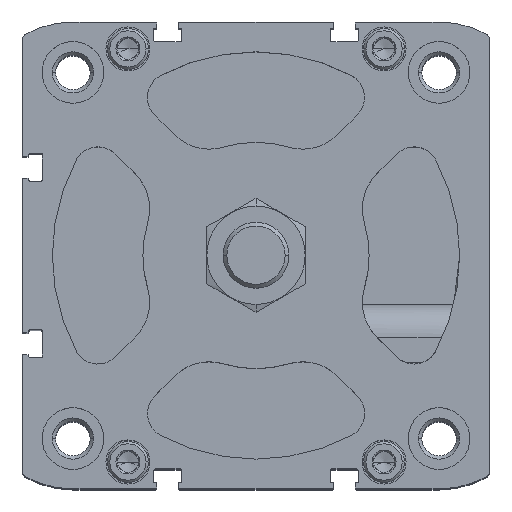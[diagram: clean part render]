
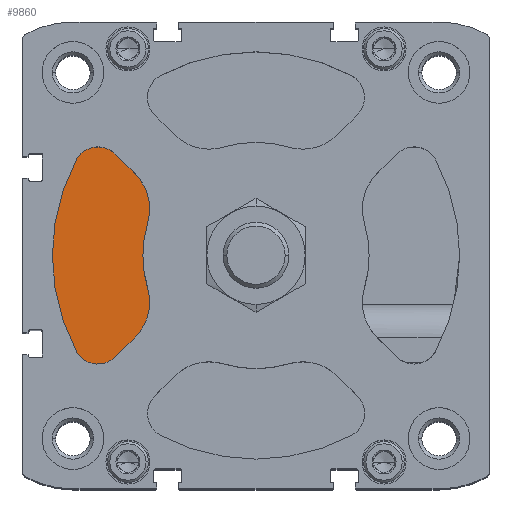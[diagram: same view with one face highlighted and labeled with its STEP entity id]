
A CAD part, top view. The second image highlights one B-rep face of the part: STEP entity #9860.
In plain terms, the highlighted planar face has unit normal (0, 0, 1).
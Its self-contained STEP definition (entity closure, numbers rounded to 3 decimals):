
#422 = CARTESIAN_POINT ( 'NONE',  ( -34.181, 24.635, -18.8 ) ) ;
#449 = CARTESIAN_POINT ( 'NONE',  ( -38.424, 26.393, -18.8 ) ) ;
#731 = EDGE_CURVE ( 'NONE', #21306, #10999, #7232, .T. ) ;
#764 = CARTESIAN_POINT ( 'NONE',  ( -43.724, 23.205, -18.8 ) ) ;
#768 = DIRECTION ( 'NONE',  ( 0., 1., 0. ) ) ;
#976 = CIRCLE ( 'NONE', #20718, 27.5 ) ;
#1273 = CARTESIAN_POINT ( 'NONE',  ( -29.356, 19.81, -18.8 ) ) ;
#1284 = VERTEX_POINT ( 'NONE', #449 ) ;
#1950 = DIRECTION ( 'NONE',  ( 1., 0., 0. ) ) ;
#2056 = ORIENTED_EDGE ( 'NONE', *, *, #9023, .T. ) ;
#2446 = DIRECTION ( 'NONE',  ( 0., 1., 0. ) ) ;
#2451 = AXIS2_PLACEMENT_3D ( 'NONE', #19384, #5644, #2446 ) ;
#2472 = LINE ( 'NONE', #15022, #20547 ) ;
#2711 = DIRECTION ( 'NONE',  ( 0., 0., 1. ) ) ;
#2885 = DIRECTION ( 'NONE',  ( 0.707, 0.707, 0. ) ) ;
#2947 = AXIS2_PLACEMENT_3D ( 'NONE', #11180, #2711, #768 ) ;
#3487 = DIRECTION ( 'NONE',  ( 0., 0., 1. ) ) ;
#3593 = CARTESIAN_POINT ( 'NONE',  ( 0., 0., -18.8 ) ) ;
#4360 = CIRCLE ( 'NONE', #10221, 12. ) ;
#4490 = ORIENTED_EDGE ( 'NONE', *, *, #731, .T. ) ;
#4624 = CARTESIAN_POINT ( 'NONE',  ( -26.345, 7.885, -18.8 ) ) ;
#4666 = AXIS2_PLACEMENT_3D ( 'NONE', #21462, #16534, #10935 ) ;
#4910 = CARTESIAN_POINT ( 'NONE',  ( -38.424, 20.393, -18.8 ) ) ;
#4964 = DIRECTION ( 'NONE',  ( 0., 1., 0. ) ) ;
#5147 = CARTESIAN_POINT ( 'NONE',  ( -43.724, -23.205, -18.8 ) ) ;
#5258 = PLANE ( 'NONE',  #12345 ) ;
#5287 = VERTEX_POINT ( 'NONE', #14257 ) ;
#5395 = DIRECTION ( 'NONE',  ( 0., 0., 1. ) ) ;
#5483 = ORIENTED_EDGE ( 'NONE', *, *, #21035, .T. ) ;
#5644 = DIRECTION ( 'NONE',  ( 0., 0., 1. ) ) ;
#6645 = DIRECTION ( 'NONE',  ( 0., 1., 0. ) ) ;
#6754 = VERTEX_POINT ( 'NONE', #12780 ) ;
#6795 = EDGE_CURVE ( 'NONE', #10649, #5287, #2472, .T. ) ;
#6990 = CIRCLE ( 'NONE', #2947, 12. ) ;
#7232 = CIRCLE ( 'NONE', #4666, 49.5 ) ;
#7314 = EDGE_CURVE ( 'NONE', #15194, #1284, #7411, .T. ) ;
#7411 = CIRCLE ( 'NONE', #20191, 6. ) ;
#7474 = ORIENTED_EDGE ( 'NONE', *, *, #6795, .T. ) ;
#8283 = CIRCLE ( 'NONE', #2451, 6. ) ;
#8349 = DIRECTION ( 'NONE',  ( 0., 0., 1. ) ) ;
#8583 = DIRECTION ( 'NONE',  ( -0.707, 0.707, 0. ) ) ;
#8897 = EDGE_CURVE ( 'NONE', #17667, #6754, #976, .T. ) ;
#8919 = CARTESIAN_POINT ( 'NONE',  ( -29.356, 19.81, -18.8 ) ) ;
#8948 = CARTESIAN_POINT ( 'NONE',  ( -38.424, -20.393, -18.8 ) ) ;
#9022 = DIRECTION ( 'NONE',  ( 0., 0., 1. ) ) ;
#9023 = EDGE_CURVE ( 'NONE', #1284, #21306, #8283, .T. ) ;
#9061 = DIRECTION ( 'NONE',  ( 0., 1., 0. ) ) ;
#9265 = CARTESIAN_POINT ( 'NONE',  ( 0., 0., -18.8 ) ) ;
#9860 = ADVANCED_FACE ( 'NONE', ( #15908 ), #5258, .T. ) ;
#10221 = AXIS2_PLACEMENT_3D ( 'NONE', #16995, #20775, #4964 ) ;
#10649 = VERTEX_POINT ( 'NONE', #11018 ) ;
#10935 = DIRECTION ( 'NONE',  ( 0., 1., 0. ) ) ;
#10999 = VERTEX_POINT ( 'NONE', #5147 ) ;
#11018 = CARTESIAN_POINT ( 'NONE',  ( -34.181, -24.635, -18.8 ) ) ;
#11080 = VERTEX_POINT ( 'NONE', #8919 ) ;
#11180 = CARTESIAN_POINT ( 'NONE',  ( -37.842, -11.325, -18.8 ) ) ;
#11310 = ORIENTED_EDGE ( 'NONE', *, *, #12956, .T. ) ;
#11617 = EDGE_CURVE ( 'NONE', #5287, #6754, #6990, .T. ) ;
#11782 = AXIS2_PLACEMENT_3D ( 'NONE', #8948, #5395, #9061 ) ;
#12345 = AXIS2_PLACEMENT_3D ( 'NONE', #9265, #9022, #1950 ) ;
#12743 = EDGE_LOOP ( 'NONE', ( #4490, #11310, #7474, #16922, #19908, #22461, #5483, #18093, #2056 ) ) ;
#12780 = CARTESIAN_POINT ( 'NONE',  ( -26.345, -7.885, -18.8 ) ) ;
#12811 = VECTOR ( 'NONE', #8583, 1000. ) ;
#12956 = EDGE_CURVE ( 'NONE', #10999, #10649, #14347, .T. ) ;
#14257 = CARTESIAN_POINT ( 'NONE',  ( -29.356, -19.81, -18.8 ) ) ;
#14347 = CIRCLE ( 'NONE', #11782, 6. ) ;
#15022 = CARTESIAN_POINT ( 'NONE',  ( -34.181, -24.635, -18.8 ) ) ;
#15194 = VERTEX_POINT ( 'NONE', #422 ) ;
#15908 = FACE_OUTER_BOUND ( 'NONE', #12743, .T. ) ;
#16534 = DIRECTION ( 'NONE',  ( 0., 0., 1. ) ) ;
#16922 = ORIENTED_EDGE ( 'NONE', *, *, #11617, .T. ) ;
#16995 = CARTESIAN_POINT ( 'NONE',  ( -37.842, 11.325, -18.8 ) ) ;
#17667 = VERTEX_POINT ( 'NONE', #4624 ) ;
#18093 = ORIENTED_EDGE ( 'NONE', *, *, #7314, .T. ) ;
#18660 = LINE ( 'NONE', #1273, #12811 ) ;
#19056 = DIRECTION ( 'NONE',  ( 0., 1., 0. ) ) ;
#19384 = CARTESIAN_POINT ( 'NONE',  ( -38.424, 20.393, -18.8 ) ) ;
#19908 = ORIENTED_EDGE ( 'NONE', *, *, #8897, .F. ) ;
#20191 = AXIS2_PLACEMENT_3D ( 'NONE', #4910, #8349, #6645 ) ;
#20336 = EDGE_CURVE ( 'NONE', #17667, #11080, #4360, .T. ) ;
#20547 = VECTOR ( 'NONE', #2885, 1000. ) ;
#20718 = AXIS2_PLACEMENT_3D ( 'NONE', #3593, #3487, #19056 ) ;
#20775 = DIRECTION ( 'NONE',  ( 0., 0., 1. ) ) ;
#21035 = EDGE_CURVE ( 'NONE', #11080, #15194, #18660, .T. ) ;
#21306 = VERTEX_POINT ( 'NONE', #764 ) ;
#21462 = CARTESIAN_POINT ( 'NONE',  ( 0., 0., -18.8 ) ) ;
#22461 = ORIENTED_EDGE ( 'NONE', *, *, #20336, .T. ) ;
